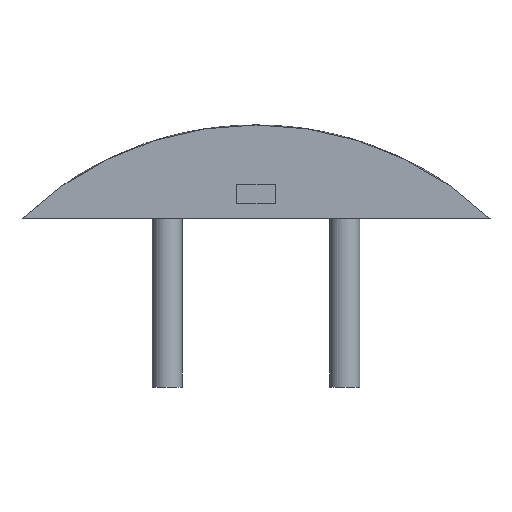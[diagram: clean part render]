
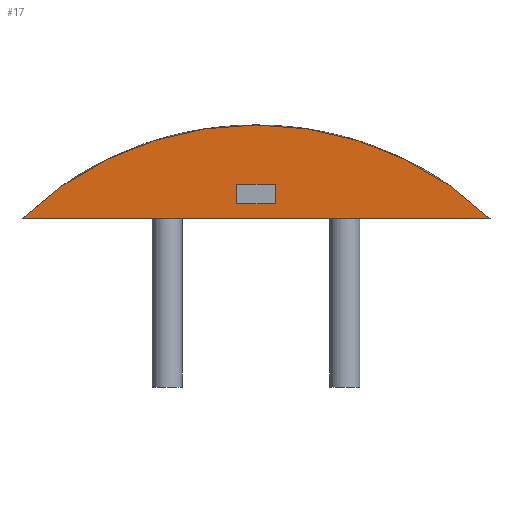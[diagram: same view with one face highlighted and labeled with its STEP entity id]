
A CAD part, left-side view. The second image highlights one B-rep face of the part: STEP entity #17.
In plain terms, the highlighted planar face has unit normal (-1, 0, 0).
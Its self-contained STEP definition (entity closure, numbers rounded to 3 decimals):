
#17 = ADVANCED_FACE('',(#18,#46),#80,.F.);
#18 = FACE_BOUND('',#19,.F.);
#19 = EDGE_LOOP('',(#20,#30,#39));
#20 = ORIENTED_EDGE('',*,*,#21,.T.);
#21 = EDGE_CURVE('',#22,#24,#26,.T.);
#22 = VERTEX_POINT('',#23);
#23 = CARTESIAN_POINT('',(0.,-125.,0.));
#24 = VERTEX_POINT('',#25);
#25 = CARTESIAN_POINT('',(0.,125.,0.));
#26 = LINE('',#27,#28);
#27 = CARTESIAN_POINT('',(0.,-125.,0.));
#28 = VECTOR('',#29,1.);
#29 = DIRECTION('',(0.,1.,0.));
#30 = ORIENTED_EDGE('',*,*,#31,.T.);
#31 = EDGE_CURVE('',#24,#32,#34,.T.);
#32 = VERTEX_POINT('',#33);
#33 = CARTESIAN_POINT('',(0.,0.,50.));
#34 = CIRCLE('',#35,181.25);
#35 = AXIS2_PLACEMENT_3D('',#36,#37,#38);
#36 = CARTESIAN_POINT('',(0.,0.,-131.25));
#37 = DIRECTION('',(1.,0.,0.));
#38 = DIRECTION('',(0.,0.,-1.));
#39 = ORIENTED_EDGE('',*,*,#40,.T.);
#40 = EDGE_CURVE('',#32,#22,#41,.T.);
#41 = CIRCLE('',#42,181.25);
#42 = AXIS2_PLACEMENT_3D('',#43,#44,#45);
#43 = CARTESIAN_POINT('',(0.,0.,-131.25));
#44 = DIRECTION('',(1.,0.,0.));
#45 = DIRECTION('',(0.,0.,-1.));
#46 = FACE_BOUND('',#47,.F.);
#47 = EDGE_LOOP('',(#48,#58,#66,#74));
#48 = ORIENTED_EDGE('',*,*,#49,.F.);
#49 = EDGE_CURVE('',#50,#52,#54,.T.);
#50 = VERTEX_POINT('',#51);
#51 = CARTESIAN_POINT('',(0.,-10.2,7.8));
#52 = VERTEX_POINT('',#53);
#53 = CARTESIAN_POINT('',(0.,10.2,7.8));
#54 = LINE('',#55,#56);
#55 = CARTESIAN_POINT('',(0.,-10.2,7.8));
#56 = VECTOR('',#57,1.);
#57 = DIRECTION('',(0.,1.,0.));
#58 = ORIENTED_EDGE('',*,*,#59,.T.);
#59 = EDGE_CURVE('',#50,#60,#62,.T.);
#60 = VERTEX_POINT('',#61);
#61 = CARTESIAN_POINT('',(0.,-10.2,18.2));
#62 = LINE('',#63,#64);
#63 = CARTESIAN_POINT('',(0.,-10.2,7.8));
#64 = VECTOR('',#65,1.);
#65 = DIRECTION('',(0.,0.,1.));
#66 = ORIENTED_EDGE('',*,*,#67,.T.);
#67 = EDGE_CURVE('',#60,#68,#70,.T.);
#68 = VERTEX_POINT('',#69);
#69 = CARTESIAN_POINT('',(0.,10.2,18.2));
#70 = LINE('',#71,#72);
#71 = CARTESIAN_POINT('',(0.,-10.2,18.2));
#72 = VECTOR('',#73,1.);
#73 = DIRECTION('',(0.,1.,0.));
#74 = ORIENTED_EDGE('',*,*,#75,.F.);
#75 = EDGE_CURVE('',#52,#68,#76,.T.);
#76 = LINE('',#77,#78);
#77 = CARTESIAN_POINT('',(0.,10.2,7.8));
#78 = VECTOR('',#79,1.);
#79 = DIRECTION('',(0.,0.,1.));
#80 = PLANE('',#81);
#81 = AXIS2_PLACEMENT_3D('',#82,#83,#84);
#82 = CARTESIAN_POINT('',(0.,0.,-131.25));
#83 = DIRECTION('',(1.,0.,0.));
#84 = DIRECTION('',(0.,0.,-1.));
